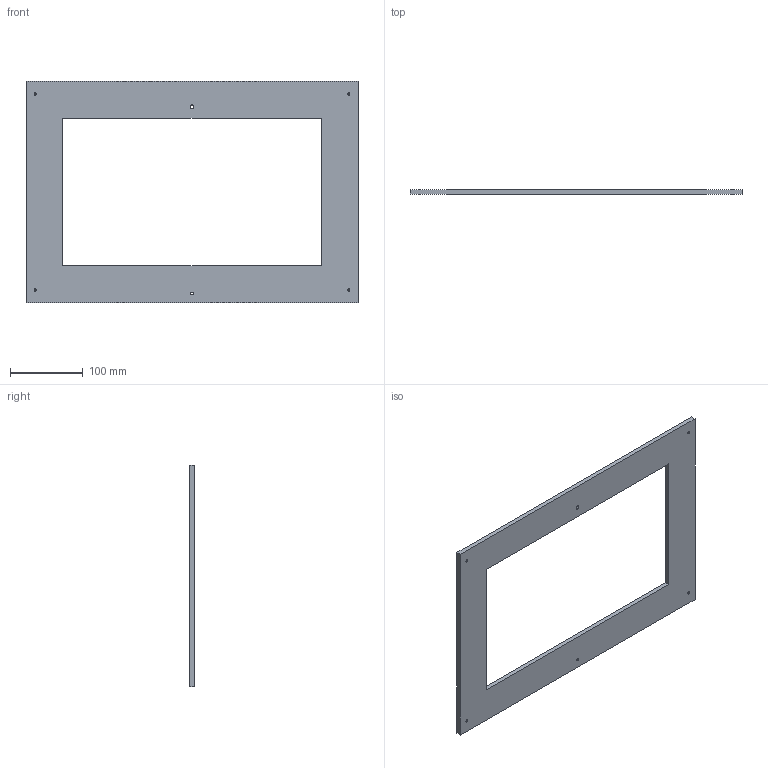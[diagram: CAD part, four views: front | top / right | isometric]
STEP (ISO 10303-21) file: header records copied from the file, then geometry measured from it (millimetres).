
FILE_DESCRIPTION(/* description */ ('STEP AP242','CAx-IF Rec.Pracs.---Representation and Presentation of Product Manufacturing Information (PMI)---4.0---2014-10-13','CAx-IF Rec.Pracs.---3D Tessellated Geometry---0.4---2014-09-14','2;1'),/* implementation_level */ '2;1');
FILE_NAME(/* name */ '67647d5a24e35a5f7c7a48d7',/* time_stamp */ '2024-12-19T20:08:58Z',/* author */ (''),/* organization */ (''),/* preprocessor_version */ 'ST-DEVELOPER v20',/* originating_system */ 'ONSHAPE BY PTC INC, 1.191',/* authorisation */ ' ');
FILE_SCHEMA (('AP242_MANAGED_MODEL_BASED_3D_ENGINEERING_MIM_LF { 1 0 10303 442 1 1 4 }'));
Length unit declared in the file: metre
Products named in the file (1): Part 1
Bounding box: 457.2 x 6.35 x 304.8 mm (x, y, z)
Volume: 425668.8 mm3; surface area: 151268.8 mm2
Topology: 1 solids, 1 shells, 16 faces, 47 edges, 33 vertices
Faces by surface type: plane 10, cylinder 6
Full cylindrical faces by diameter (mm): 3.226 x5, 5.21 x1
Entity records: 518 total; most frequent: DIRECTION 82, CARTESIAN_POINT 81, ORIENTED_EDGE 72, EDGE_CURVE 36, EDGE_LOOP 36, FACE_BOUND 36, AXIS2_PLACEMENT_3D 29, VERTEX_POINT 28
